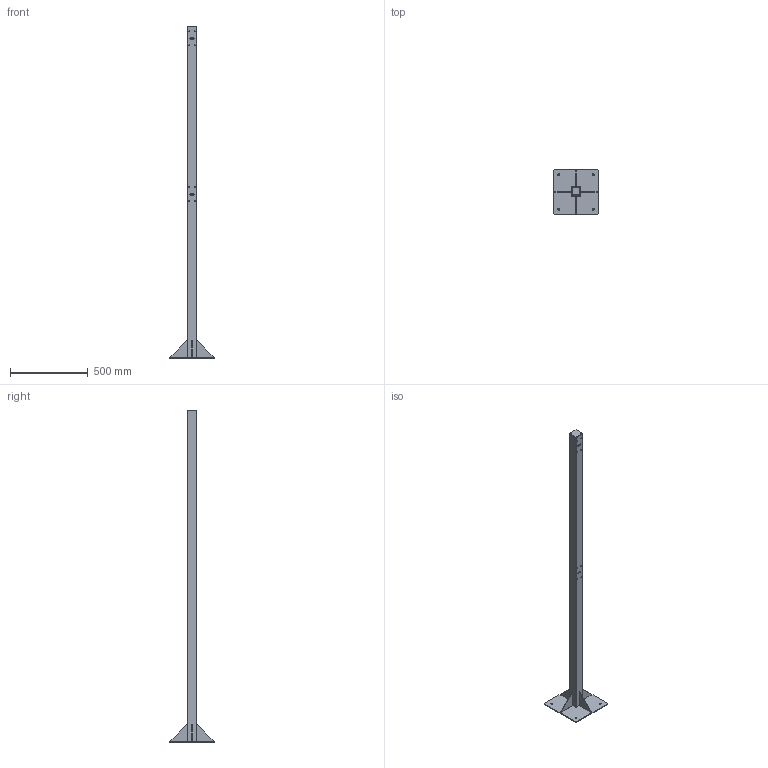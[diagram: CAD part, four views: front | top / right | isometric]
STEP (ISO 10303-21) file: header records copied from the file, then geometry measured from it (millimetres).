
FILE_DESCRIPTION(/* description */ ('Unknown'),/* implementation_level */ '2;1');
FILE_NAME(/* name */ 'BH04',/* time_stamp */ '2025-10-16T10:16:05+03:00',/* author */ ('Unknown'),/* organization */ ('Unknown'),/* preprocessor_version */ 'ST-DEVELOPER v18.102',/* originating_system */ 'Solid Edge',/* authorisation */ 'Unknown');
FILE_SCHEMA (('CONFIG_CONTROL_DESIGN'));
Length unit declared in the file: millimetre
Products named in the file (1): BH04
Bounding box: 290 x 290 x 2130 mm (x, y, z)
Volume: 1565811.6 mm3; surface area: 1212301.1 mm2
Topology: 7 solids, 7 shells, 168 faces, 460 edges, 308 vertices
Faces by surface type: plane 128, cylinder 40
Full cylindrical faces by diameter (mm): 6.5 x16, 10 x4, 12 x4
Entity records: 5297 total; most frequent: CARTESIAN_POINT 897, ORIENTED_EDGE 856, DIRECTION 842, EDGE_CURVE 428, LINE 352, VECTOR 352, VERTEX_POINT 300, EDGE_LOOP 262
